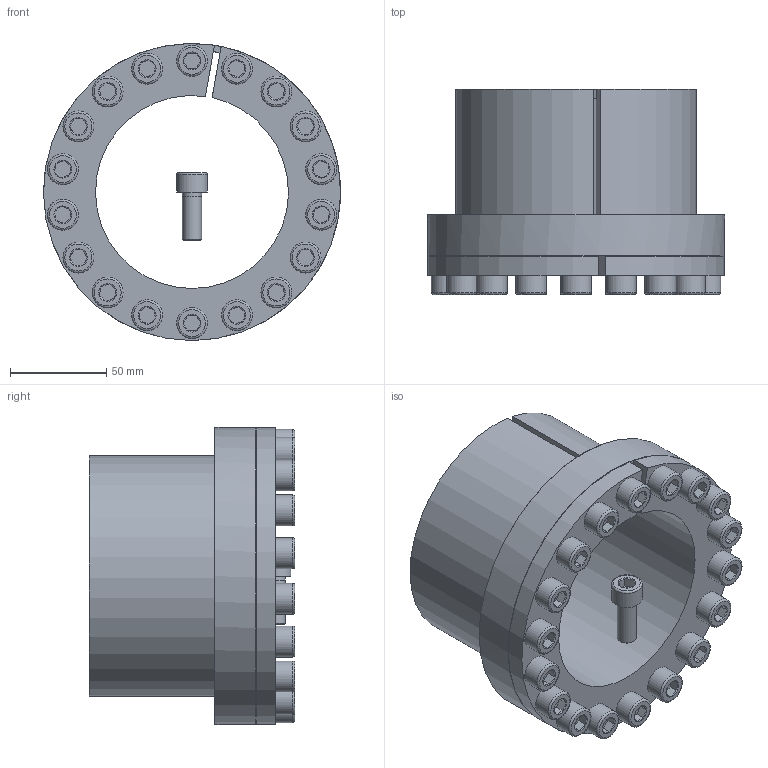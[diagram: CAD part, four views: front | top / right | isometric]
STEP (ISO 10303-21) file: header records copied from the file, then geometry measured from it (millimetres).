
FILE_DESCRIPTION( ( 'Unknown' ), '1' );
FILE_NAME( 'C:/Dokumente und Einstellungen/Sven/Desktop/homepage/cad - homepage/KBS80/KBS 80 - 100 x 125.stp', 'Unknown', ( 'Unknown' ), ( 'Unknown' ), 'XStep 1.0', 'Unknown', ' ' );
FILE_SCHEMA( ( 'automotive_design' ) );
Length unit declared in the file: millimetre
Products named in the file (20): Assem1; KBS 80 - 100 x 125; ISO EN DIN 4762 M10x25; ISO EN DIN 4762 M10x25-oa0; ISO EN DIN 4762 M10x25-oa1; ISO EN DIN 4762 M10x25-oa2; ISO EN DIN 4762 M10x25-oa3; ISO EN DIN 4762 M10x25-oa4; ISO EN DIN 4762 M10x25-oa5; ISO EN DIN 4762 M10x25-oa6; ISO EN DIN 4762 M10x25-oa7; ISO EN DIN 4762 M10x25-oa8; ISO EN DIN 4762 M10x25-oa9; ISO EN DIN 4762 M10x25-oa10; ISO EN DIN 4762 M10x25-oa11; ISO EN DIN 4762 M10x25-oa12; ISO EN DIN 4762 M10x25-oa13; ISO EN DIN 4762 M10x25-oa14; ISO EN DIN 4762 M10x25-oa15; ISO EN DIN 4762 M10x25-oa16
Bounding box: 154 x 106.5 x 154 mm (x, y, z)
Volume: 1279728.3 mm3; surface area: 286154.5 mm2
Topology: 38 solids, 38 shells, 976 faces, 1794 edges, 1036 vertices
Faces by surface type: plane 448, cone 266, cylinder 190, torus 72
Full cylindrical faces by diameter (mm): 9 x36, 10 x108, 16 x36, 154 x2
Entity records: 11957 total; most frequent: CARTESIAN_POINT 2551, DIRECTION 1972, ORIENTED_EDGE 1422, AXIS2_PLACEMENT_3D 869, EDGE_LOOP 745, EDGE_CURVE 711, FACE_OUTER_BOUND 615, ADVANCED_FACE 488
